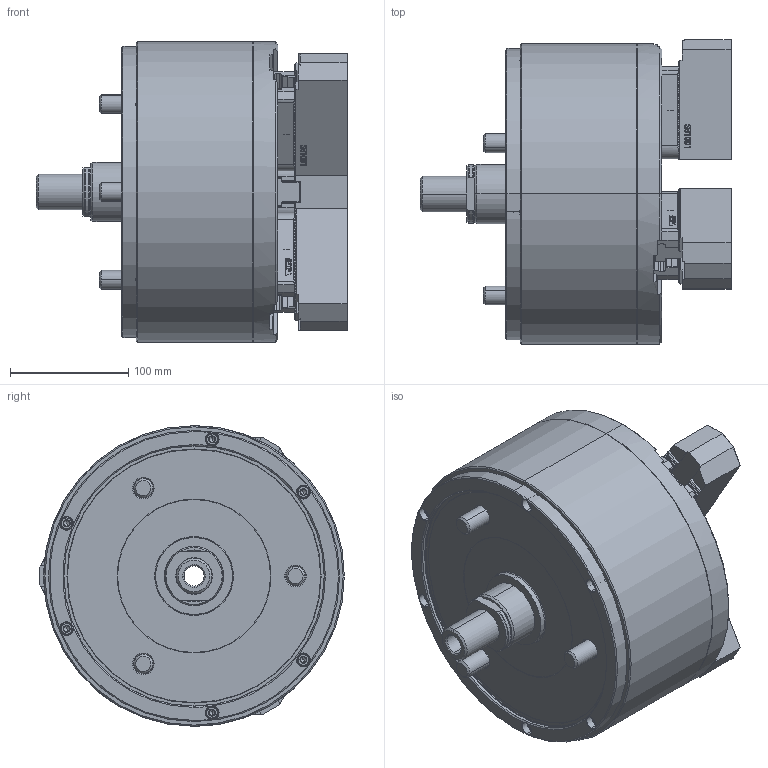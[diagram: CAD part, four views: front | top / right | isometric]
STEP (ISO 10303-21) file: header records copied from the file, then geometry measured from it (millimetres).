
FILE_DESCRIPTION (( 'STEP AP214' ), '1' );
FILE_NAME ('DL210_OC_ID.STEP', '2019-11-12T07:09:36', ( '' ), ( '' ), 'SwSTEP 2.0', 'SolidWorks 2017', '' );
FILE_SCHEMA (( 'AUTOMOTIVE_DESIGN' ));
Length unit declared in the file: millimetre
Products named in the file (5): 結合_ID; 0030114040; 61P458879; 61P390757; DL210_OC_ID
Assembly tree (13 placements, depth 2):
  DL210_OC_ID
    61P390757  x3
    61P458879  x3
    0030114040  x6
    結合_ID
Bounding box: 263.34 x 257.45 x 254 mm (x, y, z)
Volume: 7113281.6 mm3; surface area: 455900.8 mm2
Topology: 13 solids, 13 shells, 5688 faces, 15594 edges, 10142 vertices
Faces by surface type: plane 3810, bspline 733, cylinder 704, cone 405, torus 36
Entity records: 161120 total; most frequent: CARTESIAN_POINT 53833, ORIENTED_EDGE 24336, DIRECTION 18849, EDGE_CURVE 12168, VECTOR 8801, LINE 8801, VERTEX_POINT 7941, AXIS2_PLACEMENT_3D 5024
